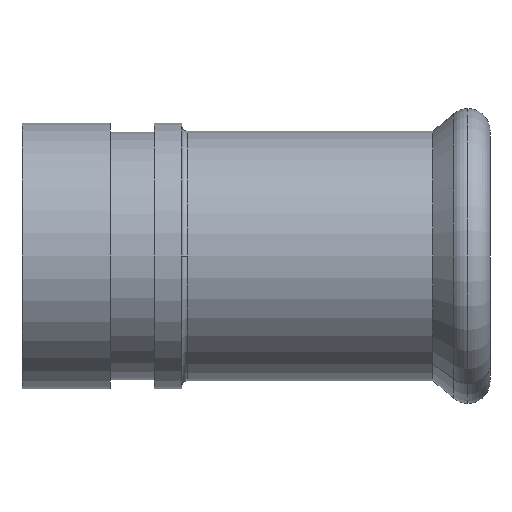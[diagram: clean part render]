
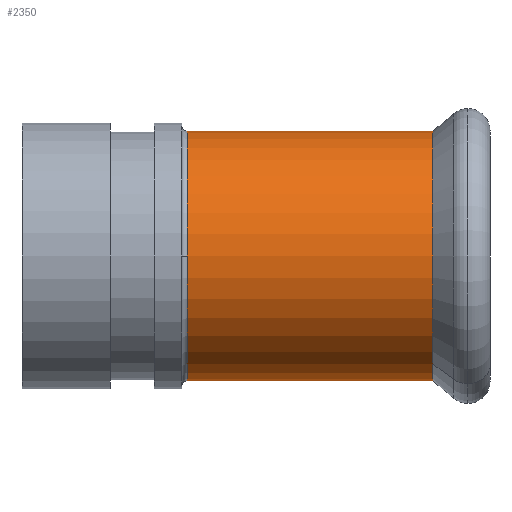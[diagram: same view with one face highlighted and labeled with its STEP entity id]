
A CAD part, front view. The second image highlights one B-rep face of the part: STEP entity #2350.
In plain terms, the highlighted cylindrical face has radius 22.65 mm (diameter 45.3 mm), a partial arc.
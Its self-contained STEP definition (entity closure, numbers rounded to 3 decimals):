
#1550=CARTESIAN_POINT('',(511.394,-209.596,
0.));
#1560=DIRECTION('',(1.,0.,0.));
#1570=DIRECTION('',(0.,0.5,
0.866));
#1580=AXIS2_PLACEMENT_3D('',#1550,#1560,#1570);
#1590=CIRCLE('',#1580,22.65);
#1600=CARTESIAN_POINT('',(511.394,-220.921,
-19.615));
#1610=VERTEX_POINT('',#1600);
#1620=CARTESIAN_POINT('',(511.394,-209.596,-22.65));
#1630=VERTEX_POINT('',#1620);
#1640=EDGE_CURVE('',#1610,#1630,#1590,.T.);
#1960=CARTESIAN_POINT('',(490.97,-209.596,
0.));
#1970=DIRECTION('',(1.,0.,0.));
#1980=DIRECTION('',(0.,-0.,-1.));
#1990=AXIS2_PLACEMENT_3D('',#1960,#1970,#1980);
#2000=CYLINDRICAL_SURFACE('',#1990,22.65);
#2010=CARTESIAN_POINT('',(490.97,-209.596,22.65));
#2020=DIRECTION('',(1.,0.,0.));
#2030=VECTOR('',#2020,1.);
#2040=LINE('',#2010,#2030);
#2050=CARTESIAN_POINT('',(466.818,-209.596,22.65));
#2060=VERTEX_POINT('',#2050);
#2070=CARTESIAN_POINT('',(511.394,-209.596,22.65));
#2080=VERTEX_POINT('',#2070);
#2090=EDGE_CURVE('',#2060,#2080,#2040,.T.);
#2100=ORIENTED_EDGE('',*,*,#2090,.F.);
#2110=EDGE_CURVE('',#2080,#1610,#1590,.T.);
#2120=ORIENTED_EDGE('',*,*,#2110,.F.);
#2130=ORIENTED_EDGE('',*,*,#1640,.F.);
#2140=CARTESIAN_POINT('',(490.97,-209.596,-22.65));
#2150=DIRECTION('',(1.,0.,0.));
#2160=VECTOR('',#2150,1.);
#2170=LINE('',#2140,#2160);
#2180=CARTESIAN_POINT('',(466.818,-209.596,-22.65));
#2190=VERTEX_POINT('',#2180);
#2200=EDGE_CURVE('',#2190,#1630,#2170,.T.);
#2210=ORIENTED_EDGE('',*,*,#2200,.T.);
#2220=CARTESIAN_POINT('',(466.818,-209.596,
0.));
#2230=DIRECTION('',(1.,0.,0.));
#2240=DIRECTION('',(0.,-1.,0.));
#2250=AXIS2_PLACEMENT_3D('',#2220,#2230,#2240);
#2260=CIRCLE('',#2250,22.65);
#2270=CARTESIAN_POINT('',(466.818,-232.246,
0.));
#2280=VERTEX_POINT('',#2270);
#2290=EDGE_CURVE('',#2280,#2190,#2260,.T.);
#2300=ORIENTED_EDGE('',*,*,#2290,.T.);
#2310=EDGE_CURVE('',#2060,#2280,#2260,.T.);
#2320=ORIENTED_EDGE('',*,*,#2310,.T.);
#2330=EDGE_LOOP('',(#2320,#2300,#2210,#2130,#2120,#2100));
#2340=FACE_OUTER_BOUND('',#2330,.T.);
#2350=ADVANCED_FACE('',(#2340),#2000,.T.);
